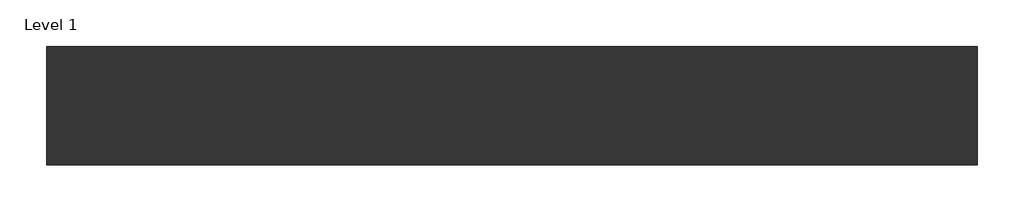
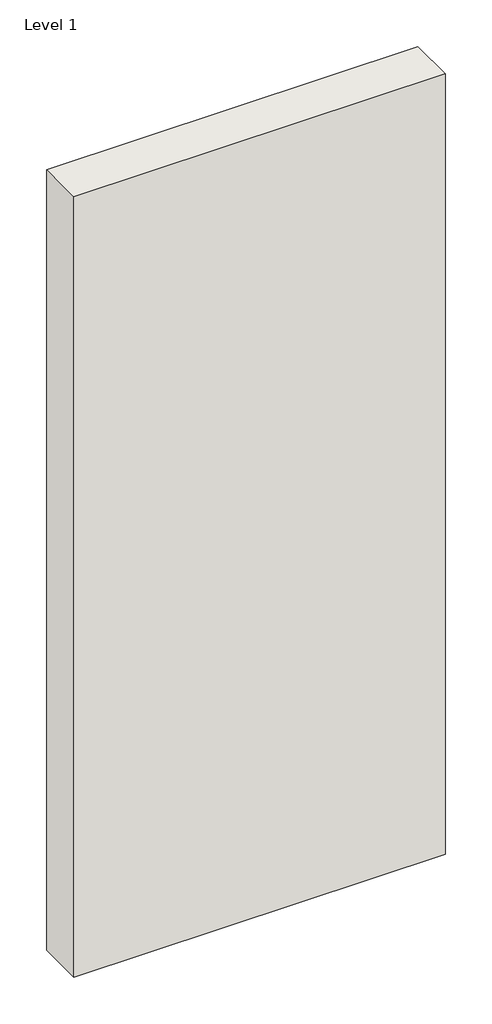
# One storey: 1 wall.
"""IFC4 building model written with IfcOpenShell, lengths in millimetres."""

from ifc_helpers import new_model, si_unit, origin, origin_with_axes, place, context, project, spatial, polyline, outline, extrude, element, save

model = new_model("IFC4")

# Units and contexts
model_context = context("Model", 3, world=origin())
ifc_project = project(units=[si_unit("LENGTHUNIT", "METRE", prefix="MILLI")], contexts=[model_context])

# Site, building, storey
site = spatial("IfcSite", under=ifc_project)
building = spatial("IfcBuilding", under=site)
storey = spatial("IfcBuildingStorey", under=building, Name="Level 1", Elevation=0.0)

# Wall
placement = place(None, origin())
element("IfcWall", 1, ObjectType="Exterior-Timber Frame-Masonry-CSR5877-250mm", at=placement, inside=storey, context=model_context, shape_type="SweptSolid", body=[
    extrude(outline(polyline([(-249.9890541, -1380.5493653), (1550.0109459, -1380.5493653), (1550.0109459, -1610.5493653), (-249.9890541, -1610.5493653), (-249.9890541, -1380.5493653)])), origin_with_axes(), (0.0, 0.0, 1.0), 4000.0),
])

save(model, "model.ifc")
